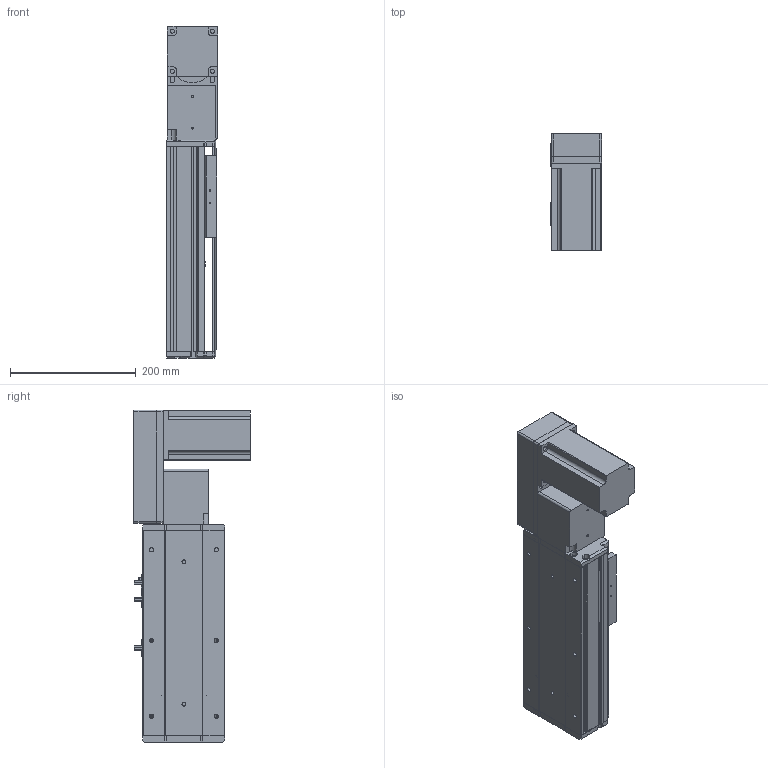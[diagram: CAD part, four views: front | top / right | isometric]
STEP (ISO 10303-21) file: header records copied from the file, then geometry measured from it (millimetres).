
FILE_DESCRIPTION (( 'STEP AP214' ), '1' );
FILE_NAME ('KSD130B-S100-MRB-CM.STEP', '2019-09-21T06:20:42', ( '微软用户' ), ( '微软中国' ), 'SwSTEP 2.0', 'SolidWorks 2014', '' );
FILE_SCHEMA (( 'AUTOMOTIVE_DESIGN' ));
Length unit declared in the file: millimetre
Products named in the file (12): 130宽马达安装板同步带右-改镜向_默认<按加工>; 130宽马达安装板同步带半封闭; 130宽同步带安装座半封闭; 130宽端盖同步带半封闭; 130宽底板半封闭同步带-100行程; KSD130B-S100-MRB-CM; 台达ECMA－C20807AS伺服电机; 130宽模组保护罩上下左右折-同步带; 130宽模组马达安装板连板左右折同步带; 覜茼え100遵圉猾敕; U倰嫖萇EEㄜSX672; 130宽盖板半封闭同步带-100行程
Assembly tree (13 placements, depth 2):
  KSD130B-S100-MRB-CM
    130宽底板半封闭同步带-100行程
    130宽端盖同步带半封闭
    130宽同步带安装座半封闭
    130宽马达安装板同步带半封闭
    130宽马达安装板同步带右-改镜向_默认<按加工>
    130宽盖板半封闭同步带-100行程
    U倰嫖萇EEㄜSX672  x3
    覜茼え100遵圉猾敕
    130宽模组马达安装板连板左右折同步带
    130宽模组保护罩上下左右折-同步带
    台达ECMA－C20807AS伺服电机
Bounding box: 81 x 184.8 x 527 mm (x, y, z)
Volume: 2561046.4 mm3; surface area: 616595.3 mm2
Topology: 14 solids, 14 shells, 1307 faces, 3621 edges, 2341 vertices
Faces by surface type: cylinder 598, plane 594, cone 115
Entity records: 40599 total; most frequent: CARTESIAN_POINT 6990, DIRECTION 6283, ORIENTED_EDGE 5998, EDGE_CURVE 2999, AXIS2_PLACEMENT_3D 2254, VERTEX_POINT 1965, VECTOR 1775, LINE 1775
